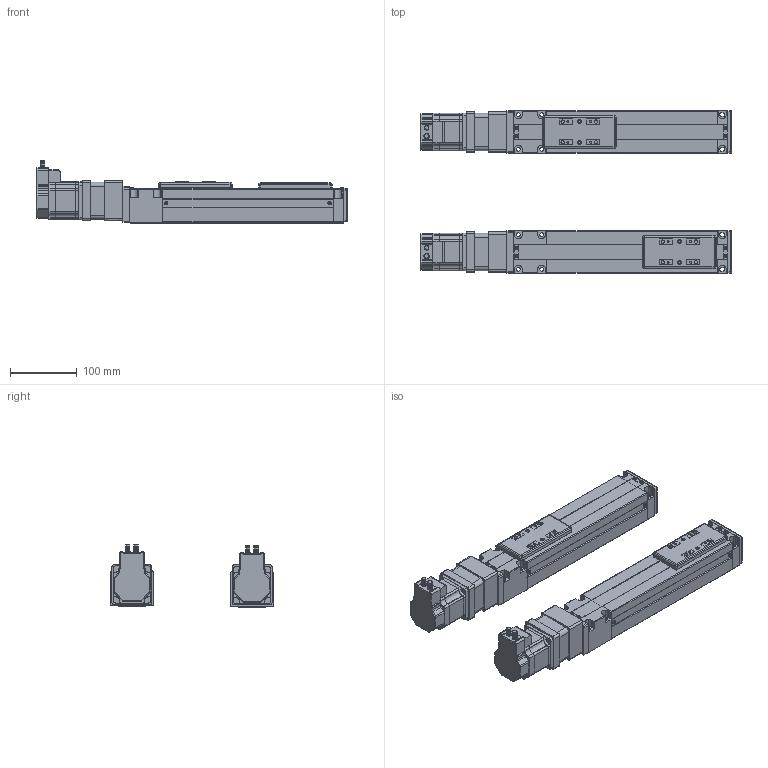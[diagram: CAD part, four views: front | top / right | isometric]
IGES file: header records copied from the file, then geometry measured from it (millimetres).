
Start section: IMSI TurboCAD v14.0
Global section: author: NULL; organization: NULL; date: 20100725.162155; units: millimetre
Bounding box: 467 x 244 x 93 mm (x, y, z)
Surface area: 563423.7 mm2 (no closed solid volume)
Topology: 0 solids, 0 shells, 3168 faces, 17782 edges, 17770 vertices
Faces by surface type: extrusion 2694, revolution 408, bspline 66
